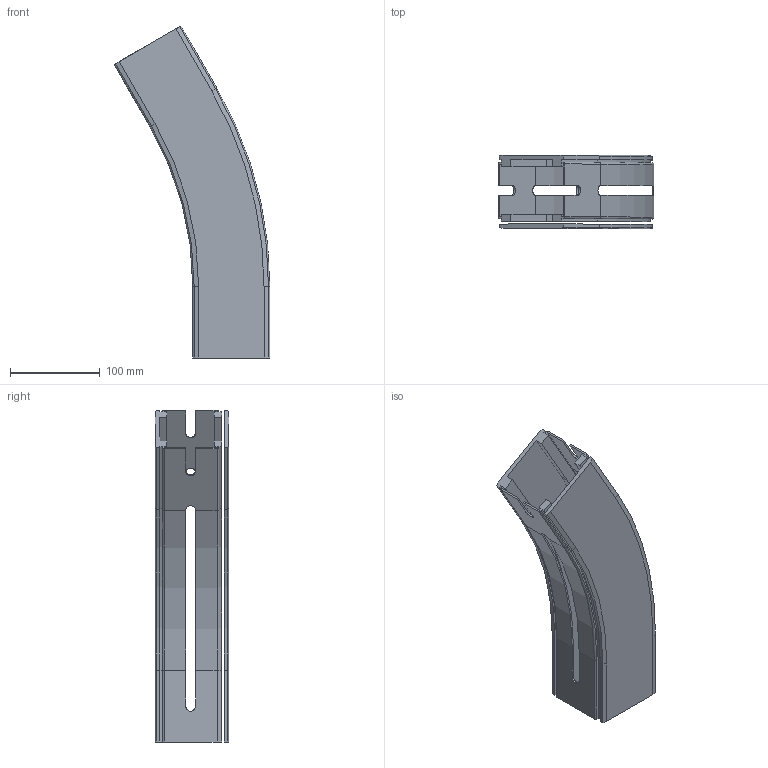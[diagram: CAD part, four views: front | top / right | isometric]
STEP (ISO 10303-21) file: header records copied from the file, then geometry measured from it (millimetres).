
FILE_DESCRIPTION((''),'2;1');
FILE_NAME('C:\Vault Klient\Projekt\Koncept konstruktion\Serie 530 Balk\530-5240.stp','2010-12-01T08:09:56',('Mathias'),(''),'Autodesk Inventor 2011','Autodesk Inventor 2011','');
FILE_SCHEMA(('AUTOMOTIVE_DESIGN { 1 0 10303 214 1 1 1 1 }'));
Length unit declared in the file: millimetre
Products named in the file (1): 530-5240
Bounding box: 173.83 x 82 x 370.78 mm (x, y, z)
Volume: 535588.9 mm3; surface area: 258124.1 mm2
Topology: 2 solids, 2 shells, 163 faces, 458 edges, 300 vertices
Faces by surface type: plane 103, cylinder 38, bspline 14, torus 4, cone 4
Entity records: 5398 total; most frequent: CARTESIAN_POINT 1116, ORIENTED_EDGE 916, DIRECTION 814, EDGE_CURVE 458, VECTOR 346, LINE 346, VERTEX_POINT 300, AXIS2_PLACEMENT_3D 234
